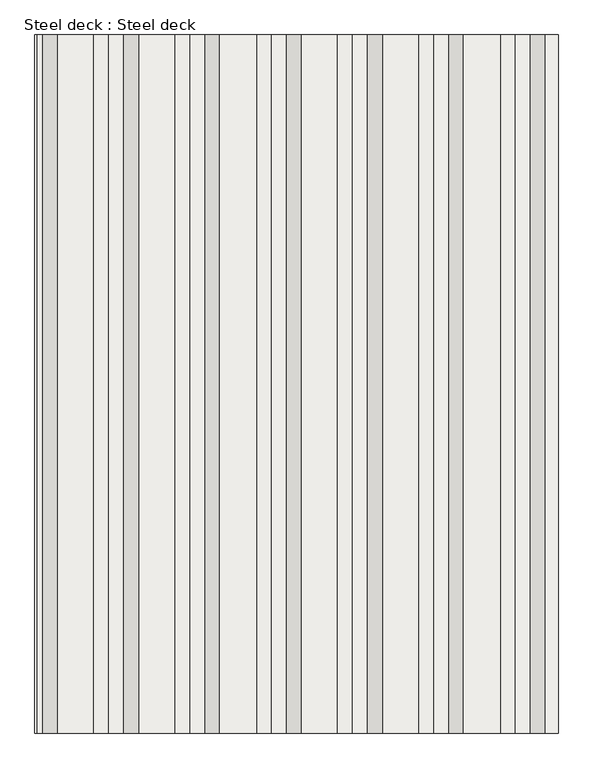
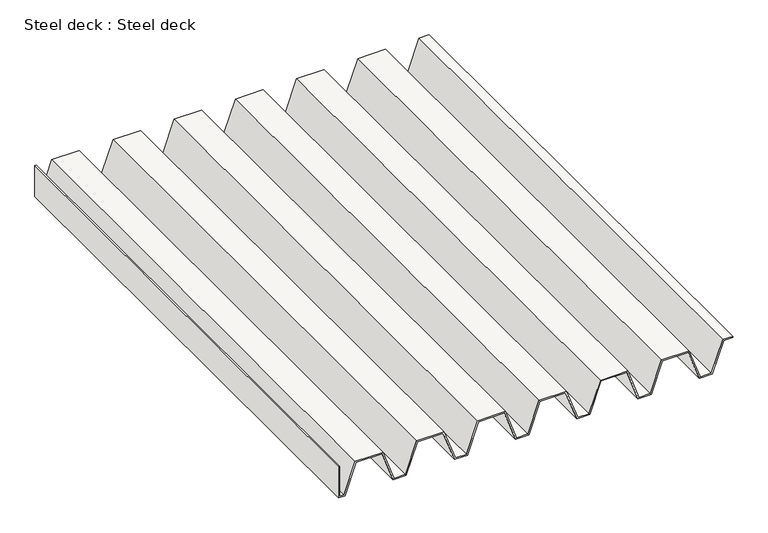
"""IFC4 building model written with IfcOpenShell, lengths in millimetres: slab geometry, Steel deck : Steel deck."""

from ifc_helpers import new_model, si_unit, frame, origin, place, context, project, spatial, polyline, outline, extrude, source, transform, mapped, element, save


def steel_deck_steel_deck_0963d6ac(model_context):
    return source(origin(), model_context, "Body", "SweptSolid", [
        extrude(outline(polyline([(-281.0, 19124.285179), (-281.0, 19174.285179), (-161.0, 19216.785179), (-161.0, 19314.785179), (-281.0, 19357.285179), (-281.0, 19407.285179), (-161.0, 19449.785179), (-161.0, 19547.785179), (-281.0, 19590.285179), (-281.0, 19640.285179), (-161.0, 19682.785179), (-161.0, 19780.785179), (-281.0, 19823.285179), (-281.0, 19873.285179), (-161.0, 19915.785179), (-161.0, 20013.785179), (-281.0, 20056.285179), (-281.0, 20106.285179), (-161.0, 20148.785179), (-161.0, 20246.785179), (-281.0, 20289.285179), (-281.0, 20339.285179), (-161.0, 20381.785179), (-161.0, 20416.285179), (-156.0, 20416.285179), (-156.0, 20378.2516886), (-276.0, 20335.7516886), (-276.0, 20292.8186695), (-156.0, 20250.3186695), (-156.0, 20145.2516886), (-276.0, 20102.7516886), (-276.0, 20059.8186695), (-156.0, 20017.3186695), (-156.0, 19912.2516886), (-276.0, 19869.7516886), (-276.0, 19826.8186695), (-156.0, 19784.3186695), (-156.0, 19679.2516886), (-276.0, 19636.7516886), (-276.0, 19593.8186694), (-156.0, 19551.3186694), (-156.0, 19446.2516886), (-276.0, 19403.7516886), (-276.0, 19360.8186694), (-156.0, 19318.3186694), (-156.0, 19213.2516886), (-276.0, 19170.7516886), (-276.0, 19127.8186694), (-156.0, 19085.3186694), (-156.0, 18980.2516886), (-276.0, 18937.7516886), (-276.0, 18921.285179), (-156.0, 18921.285179), (-156.0, 18916.285179), (-281.0, 18916.285179), (-281.0, 18941.285179), (-161.0, 18983.785179), (-161.0, 19081.785179), (-281.0, 19124.285179)])), frame((0.0, 14926.9464372, 0.0), z_axis=(0.0, 1.0, 0.0), x_axis=(0.0, 0.0, 1.0)), (0.0, 0.0, 1.0), 2000.0),
    ])


if __name__ == "__main__":
    model = new_model("IFC4")
    model_context = context("Model", 3, world=origin())
    ifc_project = project(units=[si_unit("LENGTHUNIT", "METRE", prefix="MILLI")], contexts=[model_context])
    site = spatial("IfcSite", under=ifc_project)
    building = spatial("IfcBuilding", under=site)
    placement = place(None, origin())
    steel_deck_steel_deck_shape = steel_deck_steel_deck_0963d6ac(model_context)
    element("IfcSlab", 1, ObjectType="Steel deck : Steel deck", at=placement, inside=building, context=model_context, shape_type="MappedRepresentation", body=[
        mapped(steel_deck_steel_deck_shape, transform((0.0, 0.0, 0.0), x_axis=(1.0, 0.0, 0.0), y_axis=(0.0, 1.0, 0.0), z_axis=(0.0, 0.0, 1.0))),
    ])
    save(model, "model.ifc")
